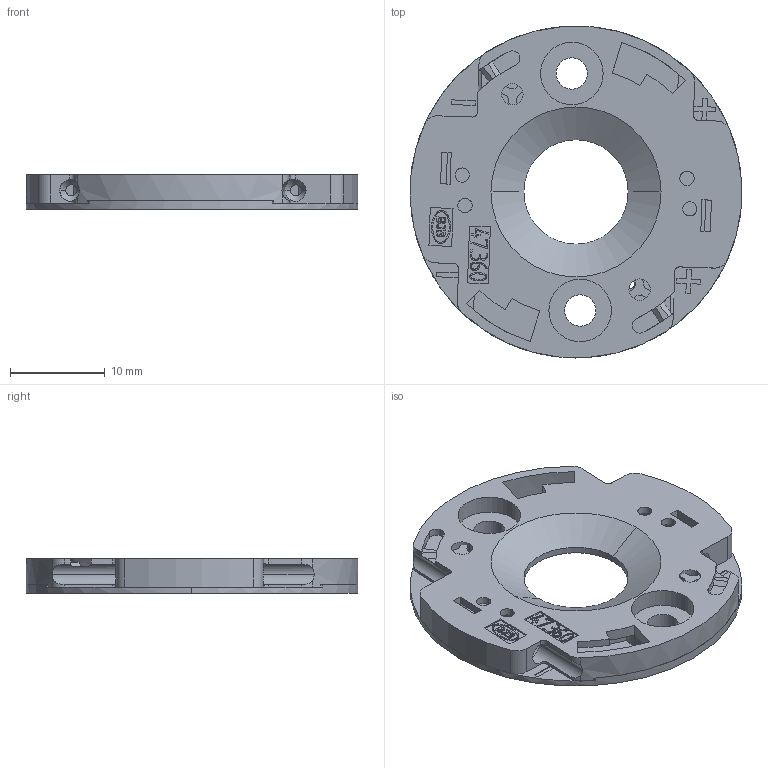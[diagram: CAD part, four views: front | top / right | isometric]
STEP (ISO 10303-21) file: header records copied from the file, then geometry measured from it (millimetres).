
FILE_DESCRIPTION(('CAx-IF Rec.Pracs.---Model Styling and Organization---1.2---2011-12-15','CAx-IF Rec.Pracs.---Geometric and Assembly Validation Properties---4.1---2014-06-16','CAx-IF Rec.Pracs.---PMI Polyline Presentation---2.0---2013-05-24'),'2;1');
FILE_NAME('01ZYR0DY03.stp','2017-11-13T09:24:33+01:00',(''),(''),'STEP Interface 4.1 by CT CoreTechnologie','3D_Evolution4.1 by CT CoreTechnologie','');
FILE_SCHEMA(('AP203_CONFIGURATION_CONTROLLED_3D_DESIGN_OF_MECHANICAL_PARTS_AND_ASSEMBLIES_MIM_LF'));
Length unit declared in the file: millimetre
Products named in the file (3): 01ZYR0DY03; 01Z-R0C-04; 01Z-R0B-03
Assembly tree (2 placements, depth 2):
  01ZYR0DY03
    01Z-R0C-04
    01Z-R0B-03
Bounding box: 35 x 35 x 3.65 mm (x, y, z)
Volume: 1803.9 mm3; surface area: 4371.3 mm2
Topology: 4 solids, 4 shells, 578 faces, 1626 edges, 1089 vertices
Faces by surface type: plane 378, cylinder 162, bspline 38
Entity records: 46189 total; most frequent: CARTESIAN_POINT 6015, PROPERTY_DEFINITION 3481, ORIENTED_EDGE 3252, DIRECTION 3025, SHAPE_REPRESENTATION 1742, REPRESENTATION 1742, GENERAL_PROPERTY 1742, PROPERTY_DEFINITION_REPRESENTATION 1742
